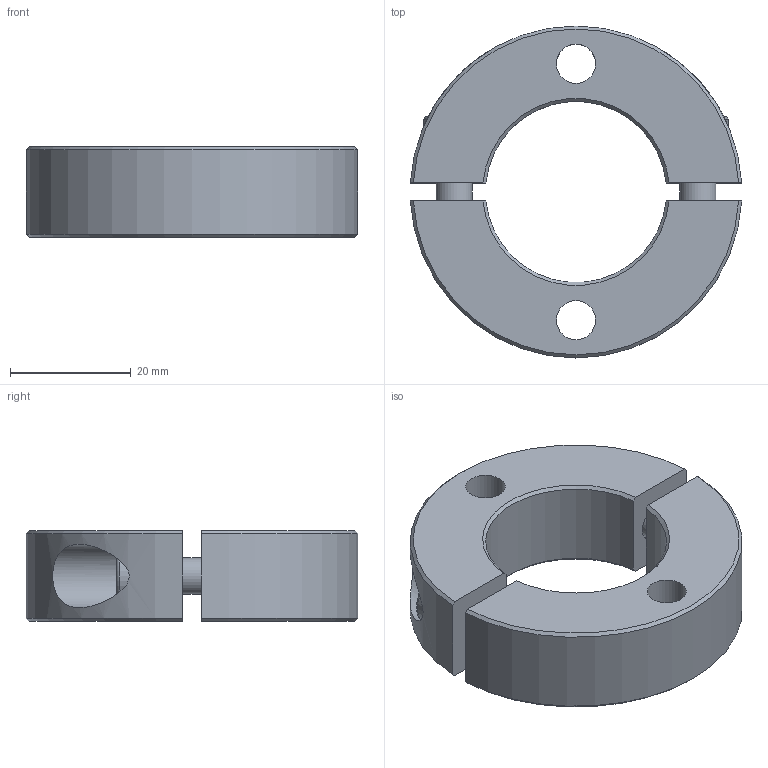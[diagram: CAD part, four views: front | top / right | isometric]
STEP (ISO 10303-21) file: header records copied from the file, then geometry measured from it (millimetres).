
FILE_DESCRIPTION( ( 'STEP AP203' ), '1' );
FILE_NAME( 'C:/Temp/Ganter_Step_05_03_2020/data/3_2/gn7072_2/Split Stainless Steel-Set collar GN 7072.2-55-B30-NI-A.stp', '2020-03-13T05:40:53', ( 'License CC BY-ND 4.0' ), ( 'CADENAS' ), ' ', 'PARTsolutions', ' ' );
FILE_SCHEMA( ( 'CONFIG_CONTROL_DESIGN' ) );
Length unit declared in the file: millimetre
Products named in the file (1): _Split Stainless Steel-Set collar GN 7072.2-55-B30-NI-A
Bounding box: 54.92 x 55 x 15 mm (x, y, z)
Volume: 21709.9 mm3; surface area: 9630.2 mm2
Topology: 1 solids, 1 shells, 52 faces, 124 edges, 84 vertices
Faces by surface type: plane 28, cylinder 14, cone 8, torus 2
Full cylindrical faces by diameter (mm): 6 x2, 6.4 x2, 6.5 x2, 10 x2, 10.5 x2
Entity records: 1632 total; most frequent: CARTESIAN_POINT 447, DIRECTION 230, ORIENTED_EDGE 212, EDGE_CURVE 106, AXIS2_PLACEMENT_3D 89, EDGE_LOOP 80, VERTEX_POINT 78, FACE_OUTER_BOUND 64
